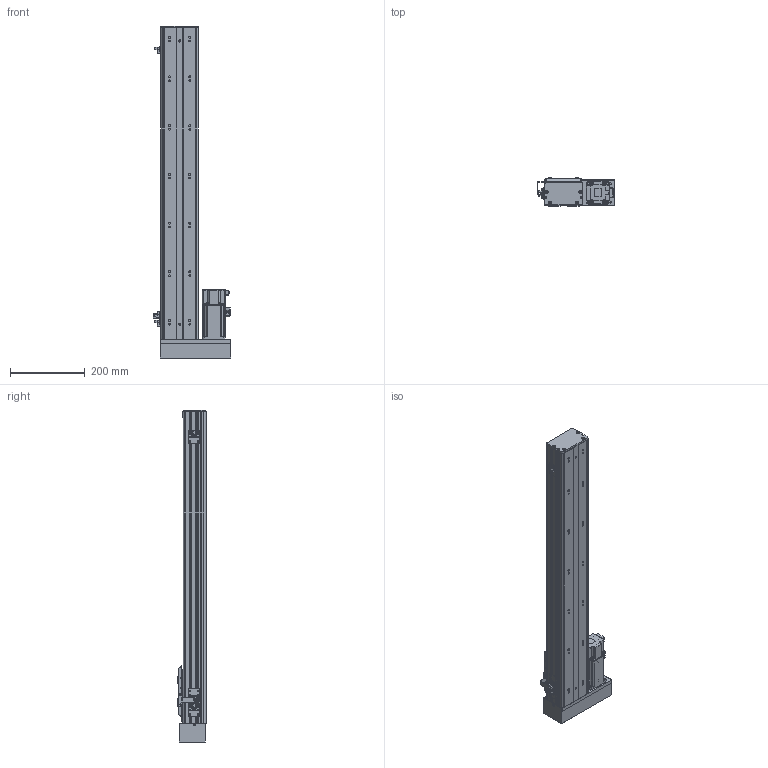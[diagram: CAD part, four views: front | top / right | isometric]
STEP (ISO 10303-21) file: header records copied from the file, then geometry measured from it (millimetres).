
FILE_DESCRIPTION (( 'STEP AP203' ), '1' );
FILE_NAME ('BOSW100-650-1610-1P-LM-M400W-O-S3（方程式2016）.step', '2020-10-10T06:57:24', ( '' ), ( '' ), 'SwSTEP 2.0', 'SolidWorks 2016', '' );
FILE_SCHEMA (( 'CONFIG_CONTROL_DESIGN' ));
Length unit declared in the file: millimetre
Products named in the file (14): BOSW&TW-100-俋离覜茼え; BOSW-100-1P-DM-宽轨-侧板-650客户图纸; BOSW-100-綴裔啣; 新结构AIMSW-100-1P-宽&高轨共用-滑动座上组件; BOSW-100-1P-DM-650諦誧芞; BOSW100-650-1610-1P-LM-M400W-O-S3（方程式2016）; 放大器内置U型微型光电传感器PM-L65; 俋境嫖覜嘐隅啣; BOSW&TW-100-詩湍揤沭(陔賦凳); S400W(SMA-L040); BOSW-100-1P-DM-宽轨-钢带-650客户图纸; boS-100-LM&RM-三菱M400W马达板-宽轨; BOSW&TW-100-1P-賑雄釱欶; AIMS(W)-100-LM&RM-肮祭謫欶
Assembly tree (19 placements, depth 2):
  BOSW100-650-1610-1P-LM-M400W-O-S3（方程式2016）
    BOSW-100-1P-DM-650諦誧芞
    BOSW-100-綴裔啣
    新结构AIMSW-100-1P-宽&高轨共用-滑动座上组件
    S400W(SMA-L040)
    BOSW&TW-100-詩湍揤沭(陔賦凳)  x2
    BOSW&TW-100-1P-賑雄釱欶
    BOSW&TW-100-俋离覜茼え
    俋境嫖覜嘐隅啣  x3
    放大器内置U型微型光电传感器PM-L65  x3
    BOSW-100-1P-DM-宽轨-侧板-650客户图纸  x2
    BOSW-100-1P-DM-宽轨-钢带-650客户图纸
    AIMS(W)-100-LM&RM-肮祭謫欶
    boS-100-LM&RM-三菱M400W马达板-宽轨
Bounding box: 207.9 x 75 x 886 mm (x, y, z)
Volume: 2009564.4 mm3; surface area: 948910.7 mm2
Topology: 19 solids, 20 shells, 2535 faces, 6693 edges, 4271 vertices
Faces by surface type: plane 1243, cylinder 806, bspline 271, cone 167, torus 36, sphere 12
Entity records: 69624 total; most frequent: CARTESIAN_POINT 20854, ORIENTED_EDGE 9926, DIRECTION 9615, EDGE_CURVE 4963, AXIS2_PLACEMENT_3D 3411, VERTEX_POINT 3173, VECTOR 2793, LINE 2793
